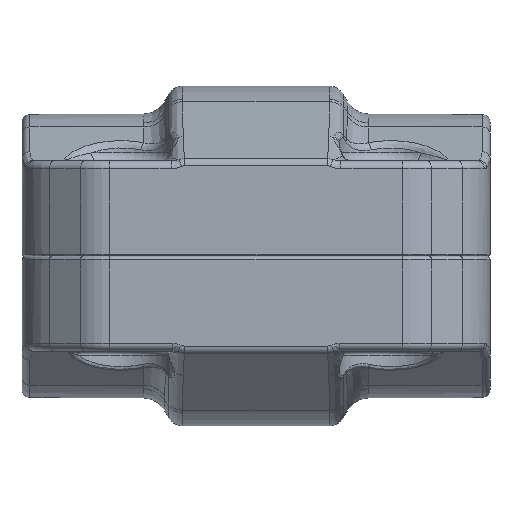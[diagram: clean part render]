
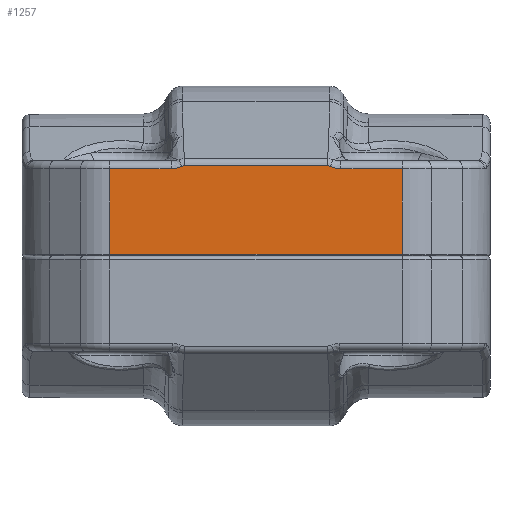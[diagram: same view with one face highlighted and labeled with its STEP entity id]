
A CAD part, front view. The second image highlights one B-rep face of the part: STEP entity #1257.
In plain terms, the highlighted planar face has unit normal (0, -1, 0).
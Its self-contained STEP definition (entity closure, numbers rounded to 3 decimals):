
#745=B_SPLINE_CURVE_WITH_KNOTS('',3,(#14093,#14094,#14095,#14096,#14097,
#14098,#14099,#14100,#14101,#14102),.UNSPECIFIED.,.F.,.F.,(4,1,1,1,1,1,1,
4),(0.,0.143,0.286,0.429,0.571,0.714,
0.857,1.),.UNSPECIFIED.);
#746=B_SPLINE_CURVE_WITH_KNOTS('',3,(#14104,#14105,#14106,#14107,#14108,
#14109),.UNSPECIFIED.,.F.,.F.,(4,1,1,4),(0.,0.333,0.667,
1.),.UNSPECIFIED.);
#747=B_SPLINE_CURVE_WITH_KNOTS('',3,(#14110,#14111,#14112,#14113,#14114,
#14115),.UNSPECIFIED.,.F.,.F.,(4,1,1,4),(0.,0.333,0.667,
1.),.UNSPECIFIED.);
#748=B_SPLINE_CURVE_WITH_KNOTS('',3,(#14117,#14118,#14119,#14120,#14121,
#14122,#14123,#14124,#14125,#14126),.UNSPECIFIED.,.F.,.F.,(4,1,1,1,1,1,1,
4),(0.,0.143,0.286,0.429,0.571,0.714,
0.857,1.),.UNSPECIFIED.);
#1257=ADVANCED_FACE('',(#1957),#1838,.F.);
#1838=PLANE('',#9883);
#1957=FACE_OUTER_BOUND('',#2558,.T.);
#2558=EDGE_LOOP('',(#3889,#3890,#3891,#3892,#3893,#3894,#3895,#3896,#3897,
#3898));
#3889=ORIENTED_EDGE('',*,*,#7611,.T.);
#3890=ORIENTED_EDGE('',*,*,#7612,.T.);
#3891=ORIENTED_EDGE('',*,*,#7613,.T.);
#3892=ORIENTED_EDGE('',*,*,#7614,.T.);
#3893=ORIENTED_EDGE('',*,*,#7610,.T.);
#3894=ORIENTED_EDGE('',*,*,#7615,.F.);
#3895=ORIENTED_EDGE('',*,*,#7616,.F.);
#3896=ORIENTED_EDGE('',*,*,#7617,.F.);
#3897=ORIENTED_EDGE('',*,*,#7618,.F.);
#3898=ORIENTED_EDGE('',*,*,#7619,.T.);
#6708=VERTEX_POINT('',#14083);
#6709=VERTEX_POINT('',#14085);
#6710=VERTEX_POINT('',#14089);
#6711=VERTEX_POINT('',#14090);
#6712=VERTEX_POINT('',#14092);
#6713=VERTEX_POINT('',#14103);
#6714=VERTEX_POINT('',#14116);
#6715=VERTEX_POINT('',#14127);
#6716=VERTEX_POINT('',#14129);
#6717=VERTEX_POINT('',#14131);
#7610=EDGE_CURVE('',#6708,#6709,#8971,.T.);
#7611=EDGE_CURVE('',#6710,#6711,#8972,.T.);
#7612=EDGE_CURVE('',#6711,#6712,#8973,.T.);
#7613=EDGE_CURVE('',#6712,#6713,#745,.T.);
#7614=EDGE_CURVE('',#6713,#6708,#746,.T.);
#7615=EDGE_CURVE('',#6714,#6709,#747,.T.);
#7616=EDGE_CURVE('',#6715,#6714,#748,.T.);
#7617=EDGE_CURVE('',#6716,#6715,#8974,.T.);
#7618=EDGE_CURVE('',#6717,#6716,#8975,.T.);
#7619=EDGE_CURVE('',#6717,#6710,#8976,.T.);
#8971=LINE('',#14086,#9397);
#8972=LINE('',#14088,#9398);
#8973=LINE('',#14091,#9399);
#8974=LINE('',#14128,#9400);
#8975=LINE('',#14130,#9401);
#8976=LINE('',#14132,#9402);
#9397=VECTOR('',#10874,1.);
#9398=VECTOR('',#10877,1.);
#9399=VECTOR('',#10878,1.);
#9400=VECTOR('',#10879,1.);
#9401=VECTOR('',#10880,1.);
#9402=VECTOR('',#10881,1.);
#9883=AXIS2_PLACEMENT_3D('',#14133,#10882,#10883);
#10874=DIRECTION('',(-1.,0.,0.));
#10877=DIRECTION('',(0.,0.,1.));
#10878=DIRECTION('',(-1.,0.,0.));
#10879=DIRECTION('',(1.,0.,0.));
#10880=DIRECTION('',(0.,0.,1.));
#10881=DIRECTION('',(1.,0.,0.));
#10882=DIRECTION('',(0.,1.,0.));
#10883=DIRECTION('',(-1.,0.,0.));
#14083=CARTESIAN_POINT('',(9.032,-25.5,11.355));
#14085=CARTESIAN_POINT('',(-9.032,-25.5,11.355));
#14086=CARTESIAN_POINT('',(9.032,-25.5,11.355));
#14088=CARTESIAN_POINT('',(18.441,-25.5,0.2));
#14089=CARTESIAN_POINT('',(18.441,-25.5,0.2));
#14090=CARTESIAN_POINT('',(18.441,-25.5,11.));
#14091=CARTESIAN_POINT('',(18.441,-25.5,11.));
#14092=CARTESIAN_POINT('',(10.708,-25.5,11.));
#14093=CARTESIAN_POINT('',(10.708,-25.5,11.));
#14094=CARTESIAN_POINT('',(10.629,-25.5,11.));
#14095=CARTESIAN_POINT('',(10.476,-25.5,11.007));
#14096=CARTESIAN_POINT('',(10.258,-25.5,11.032));
#14097=CARTESIAN_POINT('',(10.052,-25.5,11.071));
#14098=CARTESIAN_POINT('',(9.866,-25.5,11.118));
#14099=CARTESIAN_POINT('',(9.7,-25.5,11.168));
#14100=CARTESIAN_POINT('',(9.541,-25.5,11.224));
#14101=CARTESIAN_POINT('',(9.427,-25.5,11.268));
#14102=CARTESIAN_POINT('',(9.368,-25.5,11.291));
#14103=CARTESIAN_POINT('',(9.368,-25.5,11.291));
#14104=CARTESIAN_POINT('',(9.368,-25.5,11.291));
#14105=CARTESIAN_POINT('',(9.332,-25.5,11.305));
#14106=CARTESIAN_POINT('',(9.259,-25.5,11.329));
#14107=CARTESIAN_POINT('',(9.146,-25.5,11.35));
#14108=CARTESIAN_POINT('',(9.07,-25.5,11.355));
#14109=CARTESIAN_POINT('',(9.032,-25.5,11.355));
#14110=CARTESIAN_POINT('',(-9.368,-25.5,11.291));
#14111=CARTESIAN_POINT('',(-9.332,-25.5,11.305));
#14112=CARTESIAN_POINT('',(-9.259,-25.5,11.329));
#14113=CARTESIAN_POINT('',(-9.146,-25.5,11.35));
#14114=CARTESIAN_POINT('',(-9.07,-25.5,11.355));
#14115=CARTESIAN_POINT('',(-9.032,-25.5,11.355));
#14116=CARTESIAN_POINT('',(-9.368,-25.5,11.291));
#14117=CARTESIAN_POINT('',(-10.708,-25.5,11.));
#14118=CARTESIAN_POINT('',(-10.629,-25.5,11.));
#14119=CARTESIAN_POINT('',(-10.476,-25.5,11.007));
#14120=CARTESIAN_POINT('',(-10.258,-25.5,11.032));
#14121=CARTESIAN_POINT('',(-10.052,-25.5,11.071));
#14122=CARTESIAN_POINT('',(-9.866,-25.5,11.118));
#14123=CARTESIAN_POINT('',(-9.7,-25.5,11.168));
#14124=CARTESIAN_POINT('',(-9.541,-25.5,11.224));
#14125=CARTESIAN_POINT('',(-9.427,-25.5,11.268));
#14126=CARTESIAN_POINT('',(-9.368,-25.5,11.291));
#14127=CARTESIAN_POINT('',(-10.708,-25.5,11.));
#14128=CARTESIAN_POINT('',(-18.441,-25.5,11.));
#14129=CARTESIAN_POINT('',(-18.441,-25.5,11.));
#14130=CARTESIAN_POINT('',(-18.441,-25.5,0.2));
#14131=CARTESIAN_POINT('',(-18.441,-25.5,0.2));
#14132=CARTESIAN_POINT('',(-18.441,-25.5,0.2));
#14133=CARTESIAN_POINT('',(0.,-25.5,0.));
